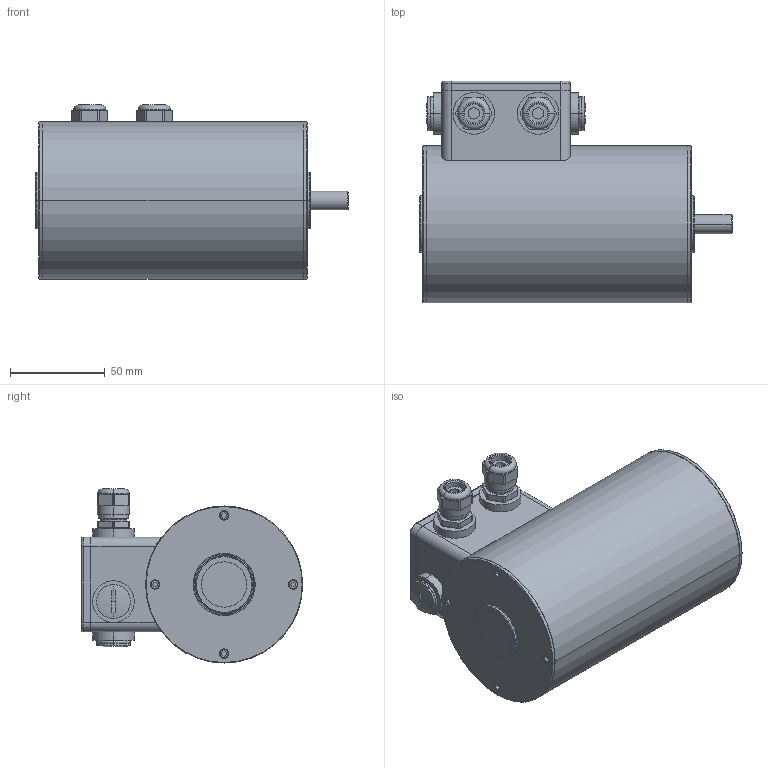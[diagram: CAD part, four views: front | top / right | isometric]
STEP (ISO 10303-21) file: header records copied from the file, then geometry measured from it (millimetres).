
FILE_DESCRIPTION (( 'STEP AP214' ), '1' );
FILE_NAME ('MQC867_K4M.STEP', '2016-04-15T10:24:15', ( 'admin' ), ( '' ), 'SwSTEP 2.0', 'SolidWorks 2015', '' );
FILE_SCHEMA (( 'AUTOMOTIVE_DESIGN' ));
Length unit declared in the file: millimetre
Products named in the file (5): 937702020; 937201981; K4M_BG_8; MQC867 vereinfacht; MQC867_K4M
Assembly tree (7 placements, depth 2):
  MQC867_K4M
    MQC867 vereinfacht
    K4M_BG_8
    937201981  x3
    937702020  x2
Bounding box: 165 x 117 x 92 mm (x, y, z)
Volume: 907178.4 mm3; surface area: 78312 mm2
Topology: 7 solids, 7 shells, 524 faces, 1163 edges, 713 vertices
Faces by surface type: plane 213, cylinder 181, cone 86, torus 40, sphere 4
Entity records: 12151 total; most frequent: DIRECTION 2081, CARTESIAN_POINT 2057, ORIENTED_EDGE 1758, EDGE_CURVE 879, AXIS2_PLACEMENT_3D 813, VERTEX_POINT 541, VECTOR 455, LINE 455
